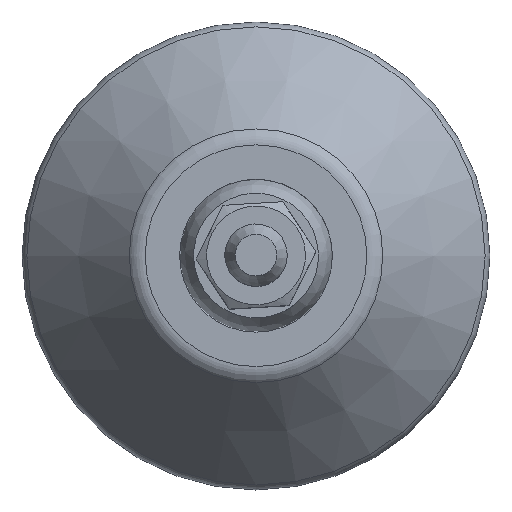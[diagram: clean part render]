
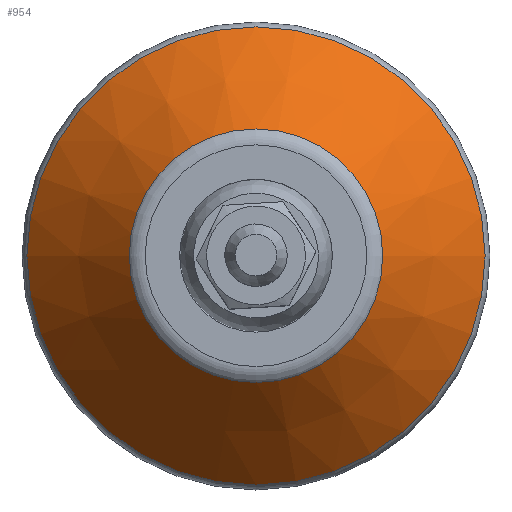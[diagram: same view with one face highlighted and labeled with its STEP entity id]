
A CAD part, top view. The second image highlights one B-rep face of the part: STEP entity #954.
In plain terms, the highlighted conical face has half-angle 40 degrees and reference radius 17.112 mm.
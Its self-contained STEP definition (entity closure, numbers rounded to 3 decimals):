
#954=ADVANCED_FACE('',(#2016,#2018),#2020,.T.);
#2016=FACE_BOUND('',#2017,.T.);
#2017=EDGE_LOOP('',(#2903,#2904));
#2018=FACE_BOUND('',#2019,.T.);
#2019=EDGE_LOOP('',(#2905,#2906));
#2020=CONICAL_SURFACE('',#2021,17.112,0.698);
#2021=AXIS2_PLACEMENT_3D('',#2022,#2023,#2024);
#2022=CARTESIAN_POINT('',(0.,0.,11.422));
#2023=DIRECTION('',(0.,0.,-1.));
#2024=DIRECTION('',(1.,0.,0.));
#2903=ORIENTED_EDGE('',*,*,#3379,.T.);
#2904=ORIENTED_EDGE('',*,*,#3378,.T.);
#2905=ORIENTED_EDGE('',*,*,#3382,.F.);
#2906=ORIENTED_EDGE('',*,*,#3383,.F.);
#3378=EDGE_CURVE('',#3899,#3900,#3901,.T.);
#3379=EDGE_CURVE('',#3900,#3899,#3902,.T.);
#3382=EDGE_CURVE('',#3907,#3908,#3909,.T.);
#3383=EDGE_CURVE('',#3908,#3907,#3910,.T.);
#3899=VERTEX_POINT('',#6316);
#3900=VERTEX_POINT('',#6317);
#3901=CIRCLE('',#6318,22.032);
#3902=CIRCLE('',#6322,22.032);
#3907=VERTEX_POINT('',#6336);
#3908=VERTEX_POINT('',#6337);
#3909=CIRCLE('',#6338,12.191);
#3910=CIRCLE('',#6342,12.191);
#6316=CARTESIAN_POINT('',(-22.032,0.,5.558));
#6317=CARTESIAN_POINT('',(22.032,0.,5.558));
#6318=AXIS2_PLACEMENT_3D('',#6319,#6320,#6321);
#6319=CARTESIAN_POINT('',(0.,0.,5.558));
#6320=DIRECTION('',(0.,0.,1.));
#6321=DIRECTION('',(-1.,0.,0.));
#6322=AXIS2_PLACEMENT_3D('',#6323,#6324,#6325);
#6323=CARTESIAN_POINT('',(0.,0.,5.558));
#6324=DIRECTION('',(0.,0.,1.));
#6325=DIRECTION('',(1.,0.,0.));
#6336=CARTESIAN_POINT('',(-12.191,0.,17.286));
#6337=CARTESIAN_POINT('',(12.191,0.,17.286));
#6338=AXIS2_PLACEMENT_3D('',#6339,#6340,#6341);
#6339=CARTESIAN_POINT('',(0.,0.,17.286));
#6340=DIRECTION('',(0.,0.,1.));
#6341=DIRECTION('',(-1.,0.,0.));
#6342=AXIS2_PLACEMENT_3D('',#6343,#6344,#6345);
#6343=CARTESIAN_POINT('',(0.,0.,17.286));
#6344=DIRECTION('',(0.,0.,1.));
#6345=DIRECTION('',(1.,0.,0.));
